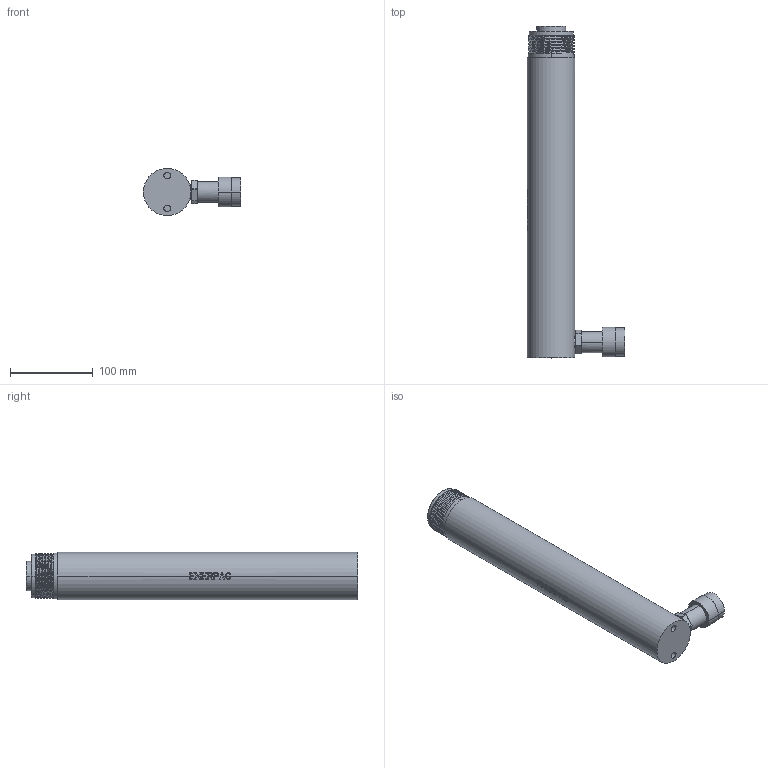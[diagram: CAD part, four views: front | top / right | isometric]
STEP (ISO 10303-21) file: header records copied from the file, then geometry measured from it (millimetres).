
FILE_DESCRIPTION((''),'2;1');
FILE_NAME('RC-1012','2013-03-12T',('chad.steele'),(''),'PRO/ENGINEER BY PARAMETRIC TECHNOLOGY CORPORATION, 2010040','PRO/ENGINEER BY PARAMETRIC TECHNOLOGY CORPORATION, 2010040','');
FILE_SCHEMA(('CONFIG_CONTROL_DESIGN'));
Length unit declared in the file: inch
Products named in the file (1): RC-1012
Bounding box: 117.03 x 400.05 x 57.15 mm (x, y, z)
Volume: 932088.2 mm3; surface area: 174123.6 mm2
Topology: 1 solids, 3 shells, 247 faces, 671 edges, 446 vertices
Faces by surface type: plane 177, cylinder 48, cone 14, bspline 8
Entity records: 9668 total; most frequent: CARTESIAN_POINT 3492, ORIENTED_EDGE 1342, DIRECTION 1176, EDGE_CURVE 671, VERTEX_POINT 446, VECTOR 412, LINE 412, AXIS2_PLACEMENT_3D 382
